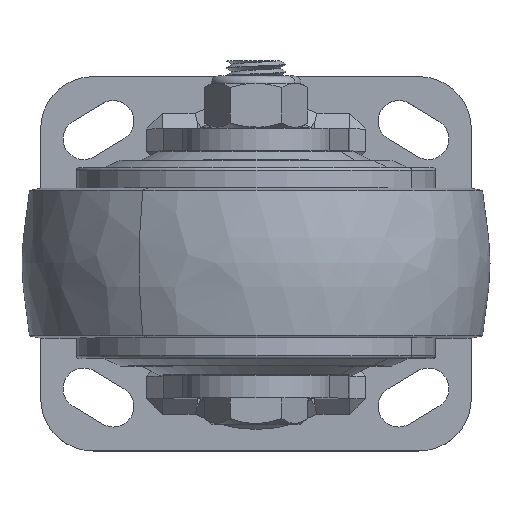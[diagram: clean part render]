
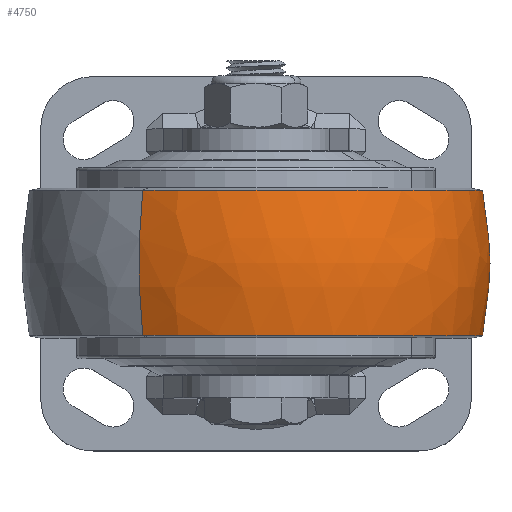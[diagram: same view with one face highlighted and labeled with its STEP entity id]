
A CAD part, top view. The second image highlights one B-rep face of the part: STEP entity #4750.
In plain terms, the highlighted free-form (B-spline) face has degree [3, 3] with [7, 4] control points.
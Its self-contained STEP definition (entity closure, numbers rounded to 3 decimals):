
#4462=CARTESIAN_POINT('',(-16.295,0.,130.724));
#4463=DIRECTION('',(0.866,0.,0.5));
#4464=DIRECTION('',(0.489,-0.204,-0.848));
#4465=AXIS2_PLACEMENT_3D('',#4462,#4463,#4464);
#4467=CARTESIAN_POINT('',(16.295,0.,74.276));
#4468=DIRECTION('',(-0.866,0.,-0.5));
#4469=DIRECTION('',(-0.489,-0.204,0.848));
#4470=AXIS2_PLACEMENT_3D('',#4467,#4468,#4469);
#4472=CARTESIAN_POINT('',(0.,19.4,102.5));
#4473=DIRECTION('',(0.,1.,0.));
#4474=DIRECTION('',(-0.5,0.,0.866));
#4475=AXIS2_PLACEMENT_3D('',#4472,#4473,#4474);
#4490=CARTESIAN_POINT('',(0.,-19.4,102.5));
#4491=DIRECTION('',(0.,1.,0.));
#4492=DIRECTION('',(-0.5,0.,0.866));
#4493=AXIS2_PLACEMENT_3D('',#4490,#4491,#4492);
#4570=CARTESIAN_POINT('',(30.25,19.4,50.105));
#4571=CARTESIAN_POINT('',(-30.25,19.4,154.895));
#4572=VERTEX_POINT('',#4570);
#4573=VERTEX_POINT('',#4571);
#4574=CARTESIAN_POINT('',(30.25,-19.4,50.105));
#4575=CARTESIAN_POINT('',(-30.25,-19.4,154.895));
#4576=VERTEX_POINT('',#4574);
#4577=VERTEX_POINT('',#4575);
#4713=CARTESIAN_POINT('',(-33.39,-20.164,
152.756));
#4714=CARTESIAN_POINT('',(-34.992,-6.825,
155.167));
#4715=CARTESIAN_POINT('',(-34.992,6.825,155.167));
#4716=CARTESIAN_POINT('',(-33.39,20.164,152.756));
#4717=CARTESIAN_POINT('',(-2.463,-20.164,
173.305));
#4718=CARTESIAN_POINT('',(-2.581,-6.825,
176.701));
#4719=CARTESIAN_POINT('',(-2.581,6.825,176.701));
#4720=CARTESIAN_POINT('',(-2.463,20.164,173.305));
#4721=CARTESIAN_POINT('',(33.688,-20.164,164.826));
#4722=CARTESIAN_POINT('',(35.304,-6.825,167.816));
#4723=CARTESIAN_POINT('',(35.304,6.825,167.816));
#4724=CARTESIAN_POINT('',(33.688,20.164,164.826));
#4725=CARTESIAN_POINT('',(52.254,-20.164,132.669));
#4726=CARTESIAN_POINT('',(54.76,-6.825,134.116));
#4727=CARTESIAN_POINT('',(54.76,6.825,134.116));
#4728=CARTESIAN_POINT('',(52.254,20.164,132.669));
#4729=CARTESIAN_POINT('',(70.82,-20.164,100.512));
#4730=CARTESIAN_POINT('',(74.217,-6.825,100.416));
#4731=CARTESIAN_POINT('',(74.217,6.825,100.416));
#4732=CARTESIAN_POINT('',(70.82,20.164,100.512));
#4733=CARTESIAN_POINT('',(60.087,-20.164,64.965));
#4734=CARTESIAN_POINT('',(62.97,-6.825,63.164));
#4735=CARTESIAN_POINT('',(62.97,6.825,63.164));
#4736=CARTESIAN_POINT('',(60.087,20.164,64.965));
#4737=CARTESIAN_POINT('',(26.828,-20.164,48.455));
#4738=CARTESIAN_POINT('',(28.115,-6.825,45.862));
#4739=CARTESIAN_POINT('',(28.115,6.825,45.862));
#4740=CARTESIAN_POINT('',(26.828,20.164,48.455));
#4741=(BOUNDED_SURFACE()B_SPLINE_SURFACE(3,3,((#4713,#4714,#4715,#4716),(#4717,
#4718,#4719,#4720),(#4721,#4722,#4723,#4724),(#4725,#4726,#4727,#4728),(#4729,
#4730,#4731,#4732),(#4733,#4734,#4735,#4736),(#4737,#4738,#4739,#4740)),
.UNSPECIFIED.,.F.,.F.,.F.)B_SPLINE_SURFACE_WITH_KNOTS((4,3,4),(4,4),(0.,1.,
2.),(0.,1.),.UNSPECIFIED.)GEOMETRIC_REPRESENTATION_ITEM()RATIONAL_B_SPLINE_SURFACE(((1.201,1.183,1.183,1.201),(
0.948,0.934,0.934,0.948),(
0.948,0.934,0.934,0.948),(
1.201,1.183,1.183,1.201),(
0.948,0.934,0.934,0.948),(
0.948,0.934,0.934,0.948),(
1.201,1.183,1.183,1.201)))REPRESENTATION_ITEM('')SURFACE());
#4743=ORIENTED_EDGE('',*,*,#4742,.T.);
#4744=ORIENTED_EDGE('',*,*,#4701,.F.);
#4746=ORIENTED_EDGE('',*,*,#4745,.F.);
#4747=ORIENTED_EDGE('',*,*,#4697,.T.);
#4748=EDGE_LOOP('',(#4743,#4744,#4746,#4747));
#4749=FACE_OUTER_BOUND('',#4748,.F.);
#4750=ADVANCED_FACE('',(#4749),#4741,.T.);
#4466=CIRCLE('',#4465,95.09);
#4471=CIRCLE('',#4470,95.09);
#4476=CIRCLE('',#4475,60.5);
#4494=CIRCLE('',#4493,60.5);
#4697=EDGE_CURVE('',#4577,#4573,#4471,.T.);
#4701=EDGE_CURVE('',#4576,#4572,#4466,.T.);
#4742=EDGE_CURVE('',#4573,#4572,#4476,.T.);
#4745=EDGE_CURVE('',#4577,#4576,#4494,.T.);
